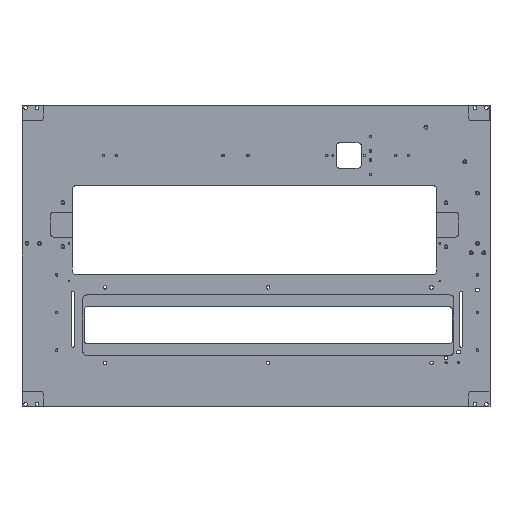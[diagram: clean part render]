
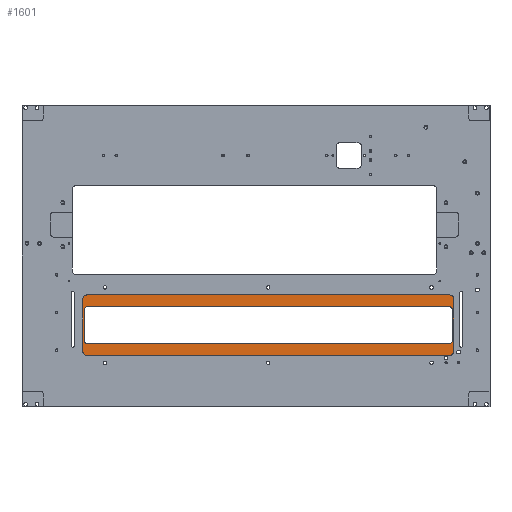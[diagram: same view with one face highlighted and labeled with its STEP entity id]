
A CAD part, front view. The second image highlights one B-rep face of the part: STEP entity #1601.
In plain terms, the highlighted planar face has unit normal (0, -1, 0).
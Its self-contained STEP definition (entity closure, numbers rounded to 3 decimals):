
#1601=ADVANCED_FACE('',(#4261,#4263),#4265,.T.);
#4261=FACE_BOUND('',#4262,.T.);
#4262=EDGE_LOOP('',(#6138,#6139,#6140,#6141,#6142,#6143,#6144,#6145));
#4263=FACE_BOUND('',#4264,.T.);
#4264=EDGE_LOOP('',(#6146,#6147,#6148,#6149,#6150,#6151,#6152,#6153));
#4265=PLANE('',#4266);
#4266=AXIS2_PLACEMENT_3D('',#4267,#4268,#4269);
#4267=CARTESIAN_POINT('',(0.,4.,0.));
#4268=DIRECTION('',(0.,-1.,0.));
#4269=DIRECTION('',(1.,0.,0.));
#6138=ORIENTED_EDGE('',*,*,#6768,.T.);
#6139=ORIENTED_EDGE('',*,*,#6782,.T.);
#6140=ORIENTED_EDGE('',*,*,#6780,.T.);
#6141=ORIENTED_EDGE('',*,*,#6778,.T.);
#6142=ORIENTED_EDGE('',*,*,#6776,.T.);
#6143=ORIENTED_EDGE('',*,*,#6774,.T.);
#6144=ORIENTED_EDGE('',*,*,#6772,.T.);
#6145=ORIENTED_EDGE('',*,*,#6770,.T.);
#6146=ORIENTED_EDGE('',*,*,#7042,.F.);
#6147=ORIENTED_EDGE('',*,*,#7043,.F.);
#6148=ORIENTED_EDGE('',*,*,#7044,.F.);
#6149=ORIENTED_EDGE('',*,*,#7045,.F.);
#6150=ORIENTED_EDGE('',*,*,#7046,.F.);
#6151=ORIENTED_EDGE('',*,*,#7047,.F.);
#6152=ORIENTED_EDGE('',*,*,#7048,.F.);
#6153=ORIENTED_EDGE('',*,*,#7049,.F.);
#6768=EDGE_CURVE('',#7624,#7622,#7625,.T.);
#6770=EDGE_CURVE('',#7627,#7624,#7628,.T.);
#6772=EDGE_CURVE('',#7630,#7627,#7631,.T.);
#6774=EDGE_CURVE('',#7633,#7630,#7634,.T.);
#6776=EDGE_CURVE('',#7636,#7633,#7637,.T.);
#6778=EDGE_CURVE('',#7639,#7636,#7640,.T.);
#6780=EDGE_CURVE('',#7642,#7639,#7643,.T.);
#6782=EDGE_CURVE('',#7622,#7642,#7645,.T.);
#7042=EDGE_CURVE('',#8104,#8105,#8106,.F.);
#7043=EDGE_CURVE('',#8107,#8104,#8108,.F.);
#7044=EDGE_CURVE('',#8109,#8107,#8110,.F.);
#7045=EDGE_CURVE('',#8111,#8109,#8112,.F.);
#7046=EDGE_CURVE('',#8113,#8111,#8114,.F.);
#7047=EDGE_CURVE('',#8115,#8113,#8116,.F.);
#7048=EDGE_CURVE('',#8117,#8115,#8118,.F.);
#7049=EDGE_CURVE('',#8105,#8117,#8119,.F.);
#7622=VERTEX_POINT('',#9374);
#7624=VERTEX_POINT('',#9378);
#7625=CIRCLE('',#9379,6.);
#7627=VERTEX_POINT('',#9386);
#7628=LINE('',#9387,#9388);
#7630=VERTEX_POINT('',#9393);
#7631=CIRCLE('',#9394,6.);
#7633=VERTEX_POINT('',#9401);
#7634=LINE('',#9402,#9403);
#7636=VERTEX_POINT('',#9408);
#7637=CIRCLE('',#9409,6.);
#7639=VERTEX_POINT('',#9416);
#7640=LINE('',#9417,#9418);
#7642=VERTEX_POINT('',#9423);
#7643=CIRCLE('',#9424,6.);
#7645=LINE('',#9431,#9432);
#8104=VERTEX_POINT('',#10545);
#8105=VERTEX_POINT('',#10546);
#8106=CIRCLE('',#10547,6.);
#8107=VERTEX_POINT('',#10551);
#8108=LINE('',#10552,#10553);
#8109=VERTEX_POINT('',#10555);
#8110=CIRCLE('',#10556,6.);
#8111=VERTEX_POINT('',#10560);
#8112=LINE('',#10561,#10562);
#8113=VERTEX_POINT('',#10564);
#8114=CIRCLE('',#10565,6.);
#8115=VERTEX_POINT('',#10569);
#8116=LINE('',#10570,#10571);
#8117=VERTEX_POINT('',#10573);
#8118=CIRCLE('',#10574,6.);
#8119=LINE('',#10578,#10579);
#9374=CARTESIAN_POINT('',(-648.,4.,172.));
#9378=CARTESIAN_POINT('',(-642.,4.,178.));
#9379=AXIS2_PLACEMENT_3D('',#9380,#9381,#9382);
#9380=CARTESIAN_POINT('',(-642.,4.,172.));
#9381=DIRECTION('',(0.,-1.,0.));
#9382=DIRECTION('',(0.,0.,1.));
#9386=CARTESIAN_POINT('',(-64.,4.,178.));
#9387=CARTESIAN_POINT('',(-64.,4.,178.));
#9388=VECTOR('',#9389,1.);
#9389=DIRECTION('',(-1.,0.,0.));
#9393=CARTESIAN_POINT('',(-58.,4.,172.));
#9394=AXIS2_PLACEMENT_3D('',#9395,#9396,#9397);
#9395=CARTESIAN_POINT('',(-64.,4.,172.));
#9396=DIRECTION('',(0.,-1.,0.));
#9397=DIRECTION('',(1.,0.,0.));
#9401=CARTESIAN_POINT('',(-58.,4.,88.));
#9402=CARTESIAN_POINT('',(-58.,4.,88.));
#9403=VECTOR('',#9404,1.);
#9404=DIRECTION('',(0.,0.,1.));
#9408=CARTESIAN_POINT('',(-64.,4.,82.));
#9409=AXIS2_PLACEMENT_3D('',#9410,#9411,#9412);
#9410=CARTESIAN_POINT('',(-64.,4.,88.));
#9411=DIRECTION('',(0.,-1.,0.));
#9412=DIRECTION('',(0.,0.,-1.));
#9416=CARTESIAN_POINT('',(-642.,4.,82.));
#9417=CARTESIAN_POINT('',(-642.,4.,82.));
#9418=VECTOR('',#9419,1.);
#9419=DIRECTION('',(1.,0.,0.));
#9423=CARTESIAN_POINT('',(-648.,4.,88.));
#9424=AXIS2_PLACEMENT_3D('',#9425,#9426,#9427);
#9425=CARTESIAN_POINT('',(-642.,4.,88.));
#9426=DIRECTION('',(0.,-1.,0.));
#9427=DIRECTION('',(-1.,0.,0.));
#9431=CARTESIAN_POINT('',(-648.,4.,172.));
#9432=VECTOR('',#9433,1.);
#9433=DIRECTION('',(0.,0.,-1.));
#10545=CARTESIAN_POINT('',(-66.,4.,100.));
#10546=CARTESIAN_POINT('',(-60.,4.,106.));
#10547=AXIS2_PLACEMENT_3D('',#10548,#10549,#10550);
#10548=CARTESIAN_POINT('',(-66.,4.,106.));
#10549=DIRECTION('',(0.,1.,0.));
#10550=DIRECTION('',(1.,0.,0.));
#10551=CARTESIAN_POINT('',(-640.,4.,100.));
#10552=CARTESIAN_POINT('',(-66.,4.,100.));
#10553=VECTOR('',#10554,1.);
#10554=DIRECTION('',(-1.,0.,0.));
#10555=CARTESIAN_POINT('',(-646.,4.,106.));
#10556=AXIS2_PLACEMENT_3D('',#10557,#10558,#10559);
#10557=CARTESIAN_POINT('',(-640.,4.,106.));
#10558=DIRECTION('',(0.,1.,0.));
#10559=DIRECTION('',(0.,0.,-1.));
#10560=CARTESIAN_POINT('',(-646.,4.,154.));
#10561=CARTESIAN_POINT('',(-646.,4.,106.));
#10562=VECTOR('',#10563,1.);
#10563=DIRECTION('',(0.,0.,1.));
#10564=CARTESIAN_POINT('',(-640.,4.,160.));
#10565=AXIS2_PLACEMENT_3D('',#10566,#10567,#10568);
#10566=CARTESIAN_POINT('',(-640.,4.,154.));
#10567=DIRECTION('',(0.,1.,0.));
#10568=DIRECTION('',(-1.,0.,0.));
#10569=CARTESIAN_POINT('',(-66.,4.,160.));
#10570=CARTESIAN_POINT('',(-640.,4.,160.));
#10571=VECTOR('',#10572,1.);
#10572=DIRECTION('',(1.,0.,0.));
#10573=CARTESIAN_POINT('',(-60.,4.,154.));
#10574=AXIS2_PLACEMENT_3D('',#10575,#10576,#10577);
#10575=CARTESIAN_POINT('',(-66.,4.,154.));
#10576=DIRECTION('',(0.,1.,0.));
#10577=DIRECTION('',(0.,0.,1.));
#10578=CARTESIAN_POINT('',(-60.,4.,154.));
#10579=VECTOR('',#10580,1.);
#10580=DIRECTION('',(0.,0.,-1.));
